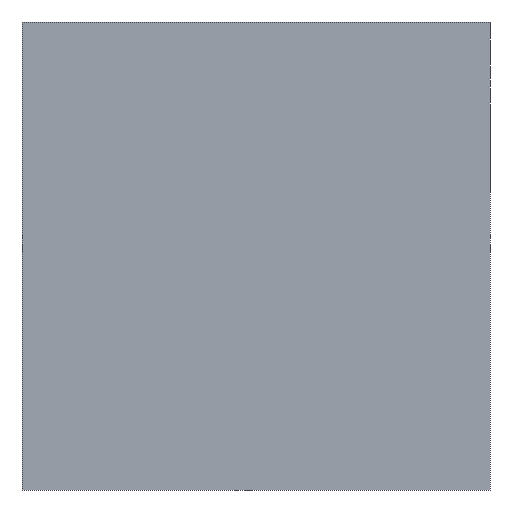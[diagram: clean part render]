
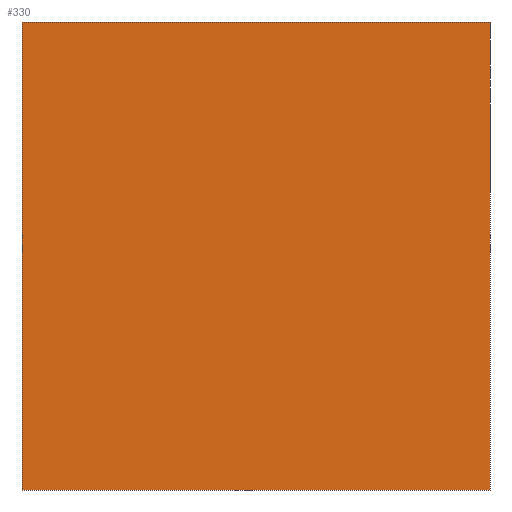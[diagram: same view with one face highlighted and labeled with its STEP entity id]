
A CAD part, front view. The second image highlights one B-rep face of the part: STEP entity #330.
In plain terms, the highlighted planar face has unit normal (0, -1, 0).
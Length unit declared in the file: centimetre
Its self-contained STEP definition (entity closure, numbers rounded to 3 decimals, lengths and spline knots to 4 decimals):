
#3 = VERTEX_POINT ( 'NONE', #111 ) ;
#4 = DIRECTION ( 'NONE',  ( 0., 1., 0. ) ) ;
#10 = DIRECTION ( 'NONE',  ( 1., 0., 0. ) ) ;
#11 = FACE_OUTER_BOUND ( 'NONE', #25, .T. ) ;
#25 = EDGE_LOOP ( 'NONE', ( #115, #58, #495, #98 ) ) ;
#44 = CARTESIAN_POINT ( 'NONE',  ( 0., 0., 1000. ) ) ;
#58 = ORIENTED_EDGE ( 'NONE', *, *, #283, .F. ) ;
#70 = DIRECTION ( 'NONE',  ( 0., 0., -1. ) ) ;
#78 = AXIS2_PLACEMENT_3D ( 'NONE', #126, #4, #92 ) ;
#92 = DIRECTION ( 'NONE',  ( 0., 0., 1. ) ) ;
#98 = ORIENTED_EDGE ( 'NONE', *, *, #303, .T. ) ;
#110 = LINE ( 'NONE', #452, #249 ) ;
#111 = CARTESIAN_POINT ( 'NONE',  ( 1000., 0., 1000. ) ) ;
#114 = CARTESIAN_POINT ( 'NONE',  ( 1000., 0., 0. ) ) ;
#115 = ORIENTED_EDGE ( 'NONE', *, *, #410, .T. ) ;
#125 = EDGE_CURVE ( 'NONE', #489, #3, #210, .T. ) ;
#126 = CARTESIAN_POINT ( 'NONE',  ( 0., 0., 1000. ) ) ;
#132 = CARTESIAN_POINT ( 'NONE',  ( 0., 0., 0. ) ) ;
#161 = VECTOR ( 'NONE', #10, 100. ) ;
#210 = LINE ( 'NONE', #292, #161 ) ;
#213 = PLANE ( 'NONE',  #78 ) ;
#249 = VECTOR ( 'NONE', #70, 100. ) ;
#283 = EDGE_CURVE ( 'NONE', #3, #285, #110, .T. ) ;
#285 = VERTEX_POINT ( 'NONE', #114 ) ;
#288 = DIRECTION ( 'NONE',  ( 0., 0., -1. ) ) ;
#292 = CARTESIAN_POINT ( 'NONE',  ( 0., 0., 1000. ) ) ;
#303 = EDGE_CURVE ( 'NONE', #489, #400, #375, .T. ) ;
#330 = ADVANCED_FACE ( 'NONE', ( #11 ), #213, .F. ) ;
#364 = VECTOR ( 'NONE', #288, 100. ) ;
#375 = LINE ( 'NONE', #44, #364 ) ;
#400 = VERTEX_POINT ( 'NONE', #132 ) ;
#410 = EDGE_CURVE ( 'NONE', #400, #285, #503, .T. ) ;
#413 = DIRECTION ( 'NONE',  ( 1., 0., 0. ) ) ;
#447 = VECTOR ( 'NONE', #413, 100. ) ;
#452 = CARTESIAN_POINT ( 'NONE',  ( 1000., 0., 1000. ) ) ;
#461 = CARTESIAN_POINT ( 'NONE',  ( 0., 0., 0. ) ) ;
#489 = VERTEX_POINT ( 'NONE', #514 ) ;
#495 = ORIENTED_EDGE ( 'NONE', *, *, #125, .F. ) ;
#503 = LINE ( 'NONE', #461, #447 ) ;
#514 = CARTESIAN_POINT ( 'NONE',  ( 0., 0., 1000. ) ) ;
